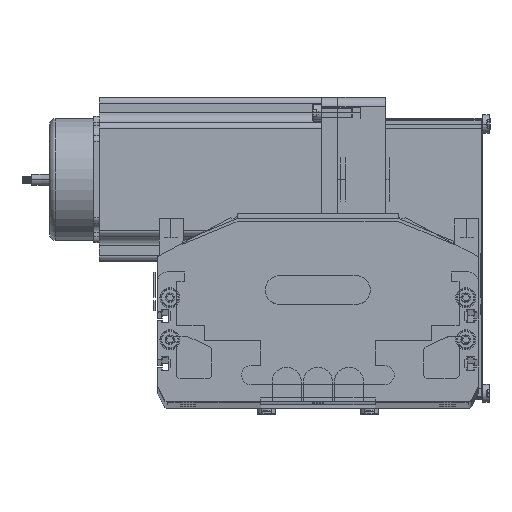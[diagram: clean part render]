
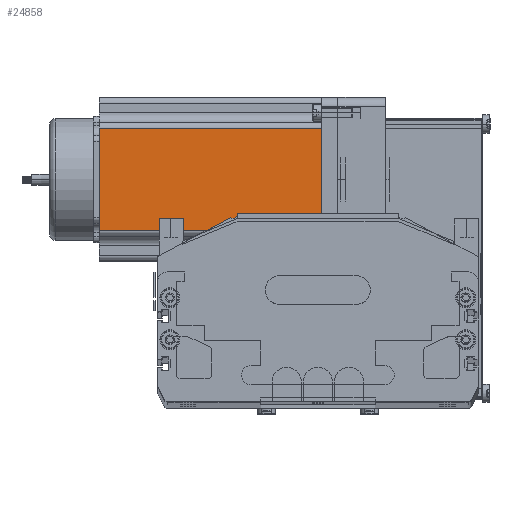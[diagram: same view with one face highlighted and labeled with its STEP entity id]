
A CAD part, top view. The second image highlights one B-rep face of the part: STEP entity #24858.
In plain terms, the highlighted planar face has unit normal (0, 0, 1) as drawn and (0, -1, 0) by its records, which use the part's own axes.
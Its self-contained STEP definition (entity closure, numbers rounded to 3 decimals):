
#24858 = ADVANCED_FACE ( 'NONE', ( #52426 ), #52428, .F. ) ;
#24860 = VERTEX_POINT ( 'NONE', #52424 ) ;
#24865 = VERTEX_POINT ( 'NONE', #52432 ) ;
#24866 = ORIENTED_EDGE ( 'NONE', *, *, #24869, .F. ) ;
#24869 = EDGE_CURVE ( 'NONE', #24860, #24865, #52420, .T. ) ;
#24875 = ORIENTED_EDGE ( 'NONE', *, *, #24987, .T. ) ;
#24880 = EDGE_CURVE ( 'NONE', #24896, #24898, #52472, .T. ) ;
#24896 = VERTEX_POINT ( 'NONE', #52466 ) ;
#24898 = VERTEX_POINT ( 'NONE', #52456 ) ;
#24905 = EDGE_CURVE ( 'NONE', #24898, #24865, #52443, .T. ) ;
#24952 = EDGE_LOOP ( 'NONE', ( #24981, #24958, #24866, #24875 ) ) ;
#24958 = ORIENTED_EDGE ( 'NONE', *, *, #24905, .T. ) ;
#24981 = ORIENTED_EDGE ( 'NONE', *, *, #24880, .T. ) ;
#24987 = EDGE_CURVE ( 'NONE', #24860, #24896, #52576, .T. ) ;
#52408 = DIRECTION ( 'NONE',  ( 1., 0., 0. ) ) ;
#52409 = VECTOR ( 'NONE', #52408, 1000. ) ;
#52417 = DIRECTION ( 'NONE',  ( 0., 0., 1. ) ) ;
#52418 = DIRECTION ( 'NONE',  ( 0., 1., 0. ) ) ;
#52419 = AXIS2_PLACEMENT_3D ( 'NONE', #52427, #52418, #52417 ) ;
#52420 = LINE ( 'NONE', #52430, #52409 ) ;
#52424 = CARTESIAN_POINT ( 'NONE',  ( 16.16, 0., 116.5 ) ) ;
#52426 = FACE_OUTER_BOUND ( 'NONE', #24952, .T. ) ;
#52427 = CARTESIAN_POINT ( 'NONE',  ( 0., 0., 116.5 ) ) ;
#52428 = PLANE ( 'NONE',  #52419 ) ;
#52430 = CARTESIAN_POINT ( 'NONE',  ( 0., 0., 116.5 ) ) ;
#52432 = CARTESIAN_POINT ( 'NONE',  ( 69.74, 0., 116.5 ) ) ;
#52440 = DIRECTION ( 'NONE',  ( 0., 0., 1. ) ) ;
#52441 = VECTOR ( 'NONE', #52440, 1000. ) ;
#52442 = CARTESIAN_POINT ( 'NONE',  ( 69.74, 0., 116.5 ) ) ;
#52443 = LINE ( 'NONE', #52442, #52441 ) ;
#52456 = CARTESIAN_POINT ( 'NONE',  ( 69.74, 0., 0. ) ) ;
#52466 = CARTESIAN_POINT ( 'NONE',  ( 16.16, 0., 0. ) ) ;
#52469 = DIRECTION ( 'NONE',  ( 1., 0., 0. ) ) ;
#52470 = VECTOR ( 'NONE', #52469, 1000. ) ;
#52471 = CARTESIAN_POINT ( 'NONE',  ( 0., 0., 0. ) ) ;
#52472 = LINE ( 'NONE', #52471, #52470 ) ;
#52575 = CARTESIAN_POINT ( 'NONE',  ( 16.16, 0., 116.5 ) ) ;
#52576 = LINE ( 'NONE', #52575, #52585 ) ;
#52584 = DIRECTION ( 'NONE',  ( 0., 0., -1. ) ) ;
#52585 = VECTOR ( 'NONE', #52584, 1000. ) ;
